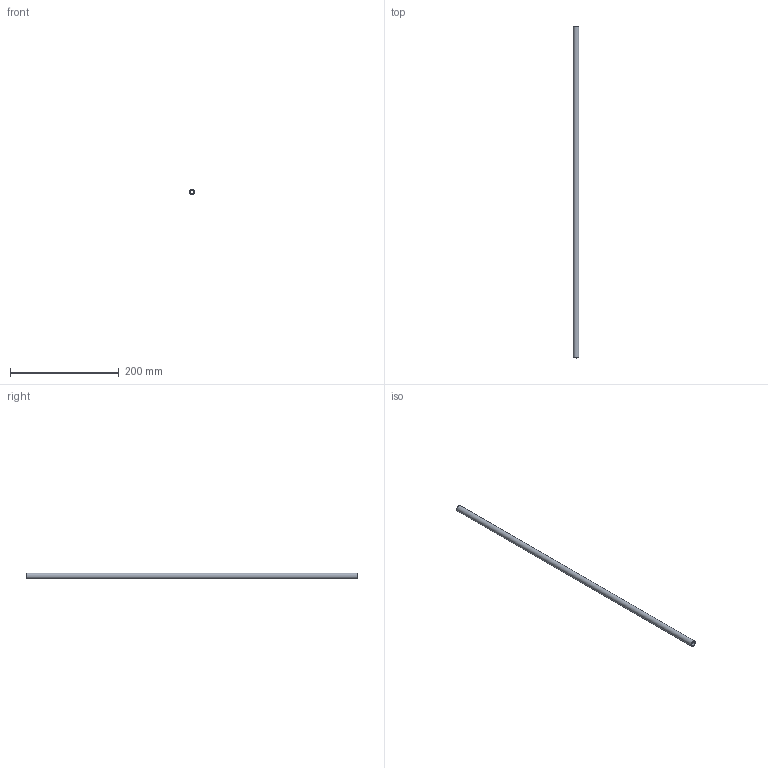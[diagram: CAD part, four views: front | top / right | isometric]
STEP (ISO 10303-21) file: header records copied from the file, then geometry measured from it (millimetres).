
FILE_DESCRIPTION(/* description */ (''),/* implementation_level */ '2;1');
FILE_NAME(/* name */ 'C:/Users/drich/Desktop/437T-24 v1.step',/* time_stamp */ '2019-12-27T17:33:00-06:00',/* author */ (''),/* organization */ (''),/* preprocessor_version */ 'ST-DEVELOPER v18',/* originating_system */ 'Autodesk Translation Framework v8.12.0.6',/* authorisation */ '');
FILE_SCHEMA (('AUTOMOTIVE_DESIGN { 1 0 10303 214 3 1 1 }'));
Length unit declared in the file: inch
Products named in the file (1): 437T-24
Bounding box: 10.98 x 609.6 x 10.98 mm (x, y, z)
Volume: 28585 mm3; surface area: 36041.4 mm2
Topology: 1 solids, 1 shells, 6 faces, 14 edges, 10 vertices
Faces by surface type: cone 2, cylinder 2, plane 2
Full cylindrical faces by diameter (mm): 7.798 x1, 10.978 x1
Entity records: 230 total; most frequent: DIRECTION 38, CARTESIAN_POINT 31, ORIENTED_EDGE 28, AXIS2_PLACEMENT_3D 17, EDGE_CURVE 14, CIRCLE 10, VERTEX_POINT 10, EDGE_LOOP 8
